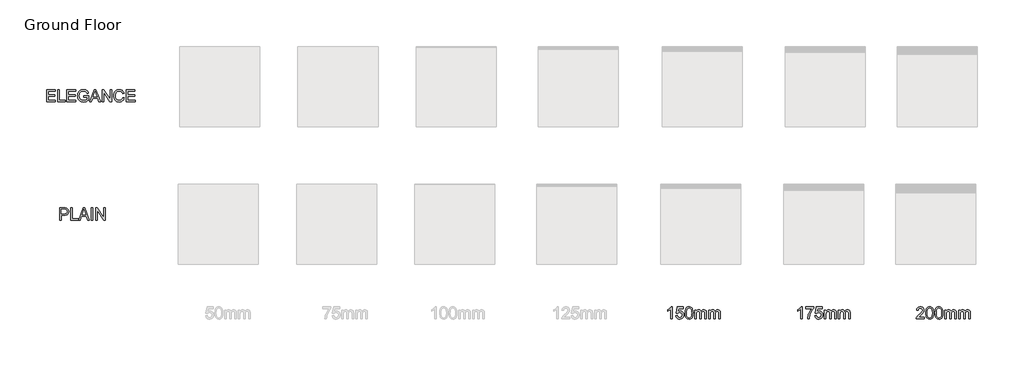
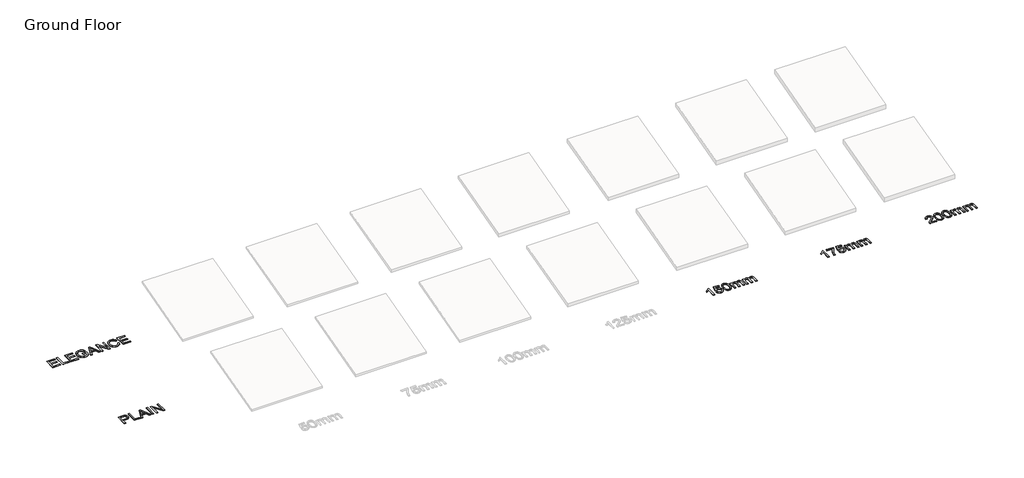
# One storey, part 3 of 3: 5 proxies.
"""IFC4 building model written with IfcOpenShell, lengths in millimetres."""

import ifcopenshell
import ifcopenshell.guid

model = None  # the IFC model being written
_history = None  # IfcOwnerHistory: only IFC2X3 demands one
_inside = {}  # id of a spatial element -> (the spatial element, [elements in it])
_under = {}  # id of a project, library or spatial element -> (it, [spatial elements below it])
_declared = {}  # id of a project -> (the project, [libraries it declares])
_typed = {}  # id of a type object -> (the type object, [elements of that type])
_made_of = {}  # id of a material, layer set ... -> (it, [elements and type objects made of it])


def new_model(schema):
    """Start an empty IFC model of exactly this schema.

    Asked for "IFC4X3", IfcOpenShell would pick the latest addendum, in which some entities
    have other attributes; the version numbers below select the first issue.
    IFC2X3 requires an IfcOwnerHistory on every rooted entity: one is made here for all.
    """
    global model, _history
    if schema == "IFC4X3":
        model = ifcopenshell.file(schema_version=(4, 3, 0, 0))
    else:
        model = ifcopenshell.file(schema=schema)
    _inside.clear()
    _under.clear()
    _declared.clear()
    _typed.clear()
    _made_of.clear()
    _history = None
    if model.schema == "IFC2X3":
        org = make("IfcOrganization", Name="unknown")
        user = make(
            "IfcPersonAndOrganization",
            ThePerson=make("IfcPerson", FamilyName="unknown"),
            TheOrganization=org,
        )
        app = make(
            "IfcApplication",
            ApplicationDeveloper=org,
            Version="unknown",
            ApplicationFullName="unknown",
            ApplicationIdentifier="unknown",
        )
        _history = make(
            "IfcOwnerHistory",
            OwningUser=user,
            OwningApplication=app,
            ChangeAction="ADDED",
            CreationDate=0,
        )
    return model


def make(cls, **values):
    """One entity of the class cls with the attributes given. An attribute that is None is left unset."""
    return model.create_entity(
        cls, **{name: value for name, value in values.items() if value is not None}
    )


def rooted(cls, **values):
    """An entity with a GlobalId (a new one), such as an element, a storey or a relation."""
    return make(cls, GlobalId=ifcopenshell.guid.new(), OwnerHistory=_history, **values)


def si_unit(unit_type, name, prefix=None):
    """IfcSIUnit, for example si_unit("LENGTHUNIT", "METRE", prefix="MILLI")."""
    return make("IfcSIUnit", UnitType=unit_type, Prefix=prefix, Name=name)


def assignment(units):
    """IfcUnitAssignment: the units of a project."""
    return None if units is None else make("IfcUnitAssignment", Units=units)


def point(xyz):
    """IfcCartesianPoint."""
    return None if xyz is None else make("IfcCartesianPoint", Coordinates=xyz)


def direction(xyz):
    """IfcDirection."""
    return None if xyz is None else make("IfcDirection", DirectionRatios=xyz)


def frame(location, z_axis=None, x_axis=None):
    """IfcAxis2Placement3D, a coordinate frame: its origin and axes. An axis left out is left unset."""
    return make(
        "IfcAxis2Placement3D",
        Location=point(location),
        Axis=direction(z_axis),
        RefDirection=direction(x_axis),
    )


def origin():
    """The frame at (0, 0, 0) with its axes left unset."""
    return frame((0.0, 0.0, 0.0))


def origin_with_axes():
    """The frame at (0, 0, 0) with the z axis (0, 0, 1) and the x axis (1, 0, 0) written out."""
    return frame((0.0, 0.0, 0.0), z_axis=(0.0, 0.0, 1.0), x_axis=(1.0, 0.0, 0.0))


def place(relative_to, where):
    """IfcLocalPlacement: puts the frame where relative to a parent placement (None: the world)."""
    return make(
        "IfcLocalPlacement", PlacementRelTo=relative_to, RelativePlacement=where
    )


def context(
    kind, dimensions, precision=None, world=None, true_north=None, identifier=None
):
    """IfcGeometricRepresentationContext, for example the 3D "Model" context."""
    return make(
        "IfcGeometricRepresentationContext",
        ContextIdentifier=identifier,
        ContextType=kind,
        CoordinateSpaceDimension=dimensions,
        Precision=precision,
        WorldCoordinateSystem=world,
        TrueNorth=true_north,
    )


def project(units=None, contexts=None):
    """IfcProject with its units and contexts."""
    return rooted(
        "IfcProject",
        Name="project",
        RepresentationContexts=contexts,
        UnitsInContext=assignment(units),
    )


def spatial(cls, under=None, at=None, **own):
    """A site, building, storey or space (cls), placed at a placement, below another one or the project."""
    s = rooted(cls, ObjectPlacement=at, **own)
    if under is not None:
        _under.setdefault(under.id(), (under, []))[1].append(s)
    return s


def polyline(points):
    """IfcPolyline through the points."""
    return make("IfcPolyline", Points=[point(p) for p in points])


def outline(outer, holes=None, kind="AREA"):
    """IfcArbitraryClosedProfileDef: a profile drawn as a closed curve; with holes, ...WithVoids."""
    if holes is None:
        return make("IfcArbitraryClosedProfileDef", ProfileType=kind, OuterCurve=outer)
    return make(
        "IfcArbitraryProfileDefWithVoids",
        ProfileType=kind,
        OuterCurve=outer,
        InnerCurves=holes,
    )


def extrude(swept, where, along, depth):
    """IfcExtrudedAreaSolid: the profile swept, set in the frame where, extruded along a direction by depth."""
    return make(
        "IfcExtrudedAreaSolid",
        SweptArea=swept,
        Position=where,
        ExtrudedDirection=direction(along),
        Depth=depth,
    )


def shape(context_of_items, identifier, shape_type, items):
    """IfcShapeRepresentation: the items that make up one representation, for example the "Body"."""
    return make(
        "IfcShapeRepresentation",
        ContextOfItems=context_of_items,
        RepresentationIdentifier=identifier,
        RepresentationType=shape_type,
        Items=items,
    )


def made_of(thing, what):
    """Note that an element or type object is made of a material, layer set ...; save() writes the relation."""
    if what is not None:
        _made_of.setdefault(what.id(), (what, []))[1].append(thing)
    return thing


def element(
    cls,
    number,
    at=None,
    inside=None,
    cuts=None,
    type_object=None,
    material=None,
    context=None,
    identifier="Body",
    shape_type=None,
    held_by="IfcProductDefinitionShape",
    body=None,
    shapes=None,
    **own,
):
    """One element of the class cls, such as IfcWall. Its Tag is "e" and its number.

    at: its placement. inside: the storey or other place that contains it. cuts: it is an
    opening in that element (IfcRelVoidsElement). A single representation is given by context,
    identifier, shape_type and body (its items); several are given by shapes. held_by: the class
    of the entity that holds the representations. save() writes the other relations.
    """
    e = rooted(cls, Tag="e%d" % number, ObjectPlacement=at, **own)
    if body is not None:
        shapes = [shape(context, identifier, shape_type, body)]
    if shapes is not None:
        e.Representation = make(held_by, Representations=shapes)
    if inside is not None:
        _inside.setdefault(inside.id(), (inside, []))[1].append(e)
    if cuts is not None:
        rooted(
            "IfcRelVoidsElement", RelatingBuildingElement=cuts, RelatedOpeningElement=e
        )
    if type_object is not None:
        _typed.setdefault(type_object.id(), (type_object, []))[1].append(e)
    return made_of(e, material)


def aggregate(whole, parts):
    """IfcRelAggregates: a whole, such as a stair, and the parts it consists of."""
    return rooted("IfcRelAggregates", RelatingObject=whole, RelatedObjects=parts)


def save(model, path):
    """Write the relations noted so far, then the file.

    IfcRelAggregates (storeys below a building ...), IfcRelContainedInSpatialStructure (elements
    in a storey), IfcRelDefinesByType, IfcRelAssociatesMaterial and IfcRelDeclares: one each for
    every whole, place, type object, material and project.
    """
    for whole, parts in _under.values():
        aggregate(whole, parts)
    for where, things in _inside.values():
        rooted(
            "IfcRelContainedInSpatialStructure",
            RelatedElements=things,
            RelatingStructure=where,
        )
    for kind, things in _typed.values():
        rooted("IfcRelDefinesByType", RelatedObjects=things, RelatingType=kind)
    for what, things in _made_of.values():
        rooted("IfcRelAssociatesMaterial", RelatedObjects=things, RelatingMaterial=what)
    for by, libraries in _declared.values():
        rooted("IfcRelDeclares", RelatingContext=by, RelatedDefinitions=libraries)
    model.write(path)


model = new_model("IFC4")

# Units and contexts
model_context = context("Model", 3, world=origin())
ifc_project = project(units=[si_unit("LENGTHUNIT", "METRE", prefix="MILLI")], contexts=[model_context])

# Site, building, storey
site = spatial("IfcSite", under=ifc_project)
building = spatial("IfcBuilding", under=site)
storey = spatial("IfcBuildingStorey", under=building, Name="Ground Floor", Elevation=0.0)

# Proxies
placement = place(None, origin())
element("IfcBuildingElementProxy", 1, Name="600mm Arial", ObjectType="600mm Arial", at=placement, inside=storey, context=model_context, shape_type="SweptSolid", body=[
    extrude(outline(polyline([(15201.7887855, -2485.58737), (15126.4465529, -2485.58737), (15126.4465529, -2015.8756386), (15094.9926423, -2041.3146785), (15055.0774458, -2066.7169303), (15013.1756866, -2088.9186087), (14975.7620877, -2104.7559286), (14975.7620877, -2033.5339743), (15034.9359066, -2001.3442998), (15086.2002626, -1963.0477841), (15126.6120998, -1922.3232472), (15153.2283621, -1882.8495091), (15201.7887855, -1882.8495091), (15201.7887855, -2485.58737)])), origin_with_axes(), (0.0, 0.0, 1.0), 20.0),
    extrude(outline(polyline([(15380.726588, -2325.4851257), (15456.0688206, -2316.0673466), (15461.6974151, -2340.2877775), (15469.9011836, -2361.2984379), (15480.680126, -2379.099328), (15494.0342425, -2393.6904476), (15509.9359417, -2405.0534027), (15528.3576326, -2413.1697993), (15549.2993152, -2418.0396372), (15572.7609894, -2419.6629165), (15601.4557851, -2417.4050407), (15626.7660663, -2410.6314135), (15648.6918332, -2399.3420348), (15667.2330858, -2383.5369045), (15681.9759568, -2363.9977721), (15692.5065789, -2341.5063866), (15698.8249521, -2316.0627481), (15700.9310766, -2287.6668566), (15698.9583094, -2260.8298651), (15693.0400078, -2236.9727177), (15683.1761718, -2216.0954144), (15669.3668014, -2198.1979554), (15651.5659113, -2183.8413605), (15629.7275164, -2173.5866499), (15603.8516166, -2167.4338235), (15573.9382118, -2165.3828814), (15537.3891356, -2168.6570312), (15507.7930291, -2178.4794804), (15484.1566109, -2193.525854), (15465.4865996, -2212.4717768), (15390.144367, -2203.0539977), (15456.0688206, -1892.2672882), (15748.0199719, -1892.2672882), (15748.0199719, -1967.6095208), (15516.990079, -1967.6095208), (15484.7636162, -2133.597877), (15511.3522874, -2114.5415897), (15538.5847521, -2100.9299559), (15566.4610103, -2092.7629756), (15594.981062, -2090.0406488), (15631.6726924, -2093.4159661), (15665.3752817, -2103.541918), (15696.0888298, -2120.4185045), (15723.8133367, -2144.0457257), (15746.7645746, -2172.9796446), (15763.158316, -2205.7763245), (15772.9945609, -2242.4357653), (15776.2733092, -2282.9579671), (15773.3210562, -2321.9902468), (15764.4642971, -2358.3001997), (15749.7030321, -2391.8878258), (15729.037261, -2422.7531252), (15697.7305032, -2454.3633857), (15661.1998211, -2476.9421431), (15619.4452146, -2490.4893976), (15572.4666838, -2495.0051491), (15533.5861555, -2492.1034798), (15498.4672205, -2483.3984721), (15467.109879, -2468.890126), (15439.5141308, -2448.5784413), (15416.5536958, -2423.4750936), (15399.1022936, -2394.5917585), (15387.1599243, -2361.9284359), (15380.726588, -2325.4851257)])), origin_with_axes(), (0.0, 0.0, 1.0), 20.0),
    extrude(outline(polyline([(15842.1977627, -2189.0744819), (15847.7343867, -2092.5974287), (15854.6551668, -2051.6843523), (15864.3442588, -2015.6549094), (15876.7602762, -1984.2147944), (15891.8618321, -1957.0697016), (15909.6489265, -1934.2196312), (15930.1215596, -1915.6645831), (15953.348709, -1901.3079882), (15979.3993528, -1891.0532776), (16008.2734909, -1884.9004512), (16039.9711233, -1882.8495091), (16086.3978311, -1887.7055514), (16127.9684966, -1902.2736785), (16162.7333451, -1925.983673), (16188.7426022, -1958.2653181), (16208.3875007, -1998.8427022), (16224.0592737, -2047.4399138), (16234.3231814, -2109.1521184), (16237.7444839, -2189.0744819), (16232.2630422, -2284.9997121), (16225.41124, -2325.7748328), (16215.818717, -2361.7582904), (16203.4992687, -2393.212201), (16188.4666907, -2420.3986805), (16170.7209829, -2443.3177288), (16150.2621455, -2461.9693459), (16127.0074049, -2476.4225098), (16100.8739876, -2486.7461983), (16071.8618938, -2492.9404114), (16039.9711233, -2495.0051491), (15998.4740343, -2491.4182996), (15961.6858347, -2480.6577513), (15929.6065248, -2462.723504), (15902.2361043, -2437.6155578), (15875.9693299, -2392.2281167), (15857.2073481, -2335.675457), (15845.9501591, -2267.9575787), (15842.1977627, -2189.0744819)]), holes=[polyline([(15917.5399953, -2188.9273291), (15919.7472873, -2254.4241198), (15926.3691632, -2307.4405138), (15937.4056231, -2347.9765112), (15952.8566669, -2376.0321118), (15971.5450722, -2395.1205889), (15992.2936167, -2408.7552153), (16015.1023004, -2416.9359912), (16039.9711233, -2419.6629165), (16064.8399462, -2416.9267941), (16087.6486299, -2408.7184271), (16108.3971744, -2395.0378154), (16127.0855798, -2375.884959), (16142.5366236, -2347.7833731), (16153.5730834, -2307.2565728), (16160.1949593, -2254.3045582), (16162.4022513, -2188.9273291), (16160.2685357, -2125.1641823), (16153.867389, -2073.0812888), (16143.1988112, -2032.6786487), (16128.2628022, -2003.9562619), (16109.8870965, -1983.9342843), (16088.8994287, -1969.6328718), (16065.2997987, -1961.0520242), (16039.0882065, -1958.1917417), (16014.3481424, -1960.7117334), (15991.9257347, -1968.2717084), (15971.8209837, -1980.8716667), (15954.0338892, -1998.5116084), (15938.0678107, -2029.781578), (15926.6634688, -2071.9408546), (15919.8208637, -2124.9894383), (15917.5399953, -2188.9273291)])]), origin_with_axes(), (0.0, 0.0, 1.0), 20.0),
    extrude(outline(polyline([(16322.5044956, -2485.58737), (16322.5044956, -2042.9517534), (16397.8467282, -2042.9517534), (16397.8467282, -2115.7923885), (16420.5082591, -2082.333521), (16449.6445131, -2056.1219288), (16484.2622089, -2039.180963), (16523.368065, -2033.5339743), (16565.2698242, -2039.2913276), (16583.1029039, -2046.4880191), (16598.8574504, -2056.5633872), (16623.9470025, -2084.2097192), (16640.3545394, -2121.0898892), (16667.8169304, -2082.7841764), (16699.1420823, -2055.422953), (16734.3299951, -2039.006219), (16773.3806689, -2033.5339743), (16803.542394, -2035.8102442), (16830.0161021, -2042.6390537), (16852.8017931, -2054.0204029), (16871.8994672, -2069.9542919), (16886.9964246, -2090.6246615), (16897.7799656, -2116.2154528), (16904.2500902, -2146.7266657), (16906.4067984, -2182.1583004), (16906.4067984, -2485.58737), (16831.0645657, -2485.58737), (16831.0645657, -2214.531916), (16829.3171263, -2176.9527702), (16824.0748078, -2151.6240948), (16814.2523586, -2134.2784587), (16798.7645266, -2120.6484308), (16778.8437165, -2111.8192629), (16755.7223331, -2108.8762069), (16734.3713818, -2110.7616022), (16714.9058258, -2116.4177879), (16697.3256649, -2125.844764), (16681.6308993, -2139.0425306), (16668.7228398, -2156.3973637), (16659.5027973, -2178.2955394), (16653.9707718, -2204.7370578), (16652.1267633, -2235.7219189), (16652.1267633, -2485.58737), (16576.7845307, -2485.58737), (16576.7845307, -2206.1442065), (16572.425129, -2163.5434714), (16566.975877, -2146.8232348), (16559.3469241, -2133.1564186), (16549.2347678, -2122.533826), (16536.3359053, -2114.9462599), (16520.6503367, -2110.3937202), (16502.1780621, -2108.8762069), (16473.1521726, -2112.9229089), (16446.4071516, -2125.0630147), (16424.3342319, -2145.0022189), (16409.3246465, -2172.4462157), (16400.7162078, -2210.5220022), (16397.8467282, -2262.3565753), (16397.8467282, -2485.58737), (16322.5044956, -2485.58737)])), origin_with_axes(), (0.0, 0.0, 1.0), 20.0),
    extrude(outline(polyline([(17019.4201473, -2485.58737), (17019.4201473, -2042.9517534), (17094.7623799, -2042.9517534), (17094.7623799, -2115.7923885), (17117.4239108, -2082.333521), (17146.5601648, -2056.1219288), (17181.1778606, -2039.180963), (17220.2837166, -2033.5339743), (17262.1854759, -2039.2913276), (17280.0185556, -2046.4880191), (17295.7731021, -2056.5633872), (17320.8626541, -2084.2097192), (17337.2701911, -2121.0898892), (17364.732582, -2082.7841764), (17396.0577339, -2055.422953), (17431.2456468, -2039.006219), (17470.2963206, -2033.5339743), (17500.4580456, -2035.8102442), (17526.9317537, -2042.6390537), (17549.7174448, -2054.0204029), (17568.8151189, -2069.9542919), (17583.9120762, -2090.6246615), (17594.6956172, -2116.2154528), (17601.1657418, -2146.7266657), (17603.32245, -2182.1583004), (17603.32245, -2485.58737), (17527.9802174, -2485.58737), (17527.9802174, -2214.531916), (17526.2327779, -2176.9527702), (17520.9904595, -2151.6240948), (17511.1680102, -2134.2784587), (17495.6801782, -2120.6484308), (17475.7593682, -2111.8192629), (17452.6379848, -2108.8762069), (17431.2870335, -2110.7616022), (17411.8214774, -2116.4177879), (17394.2413166, -2125.844764), (17378.546551, -2139.0425306), (17365.6384915, -2156.3973637), (17356.418449, -2178.2955394), (17350.8864235, -2204.7370578), (17349.042415, -2235.7219189), (17349.042415, -2485.58737), (17273.7001823, -2485.58737), (17273.7001823, -2206.1442065), (17269.3407807, -2163.5434714), (17263.8915286, -2146.8232348), (17256.2625758, -2133.1564186), (17246.1504194, -2122.533826), (17233.251557, -2114.9462599), (17217.5659884, -2110.3937202), (17199.0937137, -2108.8762069), (17170.0678243, -2112.9229089), (17143.3228033, -2125.0630147), (17121.2498835, -2145.0022189), (17106.2402981, -2172.4462157), (17097.6318594, -2210.5220022), (17094.7623799, -2262.3565753), (17094.7623799, -2485.58737), (17019.4201473, -2485.58737)])), origin_with_axes(), (0.0, 0.0, 1.0), 20.0),
])
element("IfcBuildingElementProxy", 2, Name="600mm Arial", ObjectType="600mm Arial", at=placement, inside=storey, context=model_context, shape_type="SweptSolid", body=[
    extrude(outline(polyline([(-15403.839663, 2451.9959966), (-15403.839663, 3054.7338575), (-15180.4617155, 3054.7338575), (-15128.4432014, 3053.2991177), (-15090.4042031, 3048.9948984), (-15050.2498833, 3038.2711382), (-15017.1956861, 3020.8151376), (-14990.5794237, 2995.8359501), (-14969.7389087, 2962.5426295), (-14956.2744277, 2923.2712265), (-14951.7862673, 2880.3577918), (-14954.8166953, 2843.3580601), (-14963.9079791, 2809.3197785), (-14979.0601187, 2778.242947), (-15000.2731143, 2750.1275655), (-15029.3955727, 2726.8222411), (-15068.2761011, 2710.1755808), (-15116.9146994, 2700.1875847), (-15175.3113676, 2696.8582526), (-15328.4974304, 2696.8582526), (-15328.4974304, 2451.9959966), (-15403.839663, 2451.9959966)]), holes=[polyline([(-15328.4974304, 2772.2004852), (-15170.8967836, 2772.2004852), (-15134.6604071, 2773.9295306), (-15104.0894133, 2779.1166667), (-15079.1838023, 2787.7618936), (-15059.9435739, 2799.8652113), (-15045.586979, 2815.1047229), (-15035.3322684, 2833.1585318), (-15029.1794421, 2854.026638), (-15027.1284999, 2877.7090414), (-15031.9661482, 2911.554185), (-15046.4790929, 2940.1018278), (-15068.8647123, 2961.5861363), (-15097.3203846, 2974.241277), (-15126.3830622, 2978.1040379), (-15172.6626172, 2979.3916249), (-15328.4974304, 2979.3916249), (-15328.4974304, 2772.2004852)])]), origin_with_axes(), (0.0, 0.0, 1.0), 20.0),
    extrude(outline(polyline([(-14848.1906975, 2451.9959966), (-14848.1906975, 3054.7338575), (-14772.8484649, 3054.7338575), (-14772.8484649, 2527.3382292), (-14471.4795344, 2527.3382292), (-14471.4795344, 2451.9959966), (-14848.1906975, 2451.9959966)])), origin_with_axes(), (0.0, 0.0, 1.0), 20.0),
    extrude(outline(polyline([(-14456.9114074, 2451.9959966), (-14216.3165826, 3054.7338575), (-14152.1579626, 3054.7338575), (-13911.5631378, 2451.9959966), (-13991.1728015, 2451.9959966), (-14060.1874638, 2640.3515782), (-14308.4342342, 2640.3515782), (-14377.3017437, 2451.9959966), (-14456.9114074, 2451.9959966)]), holes=[polyline([(-14280.7695081, 2715.6938108), (-14087.705037, 2715.6938108), (-14142.0044195, 2863.8766784), (-14184.2372726, 2979.3916249), (-14221.7612361, 2876.8261247), (-14280.7695081, 2715.6938108)])]), origin_with_axes(), (0.0, 0.0, 1.0), 20.0),
    extrude(outline(polyline([(-13821.6527781, 2451.9959966), (-13821.6527781, 3054.7338575), (-13746.3105455, 3054.7338575), (-13746.3105455, 2451.9959966), (-13821.6527781, 2451.9959966)])), origin_with_axes(), (0.0, 0.0, 1.0), 20.0),
    extrude(outline(polyline([(-13595.6260803, 2451.9959966), (-13595.6260803, 3054.7338575), (-13514.986347, 3054.7338575), (-13200.0793591, 2577.2230278), (-13200.0793591, 3054.7338575), (-13124.7371265, 3054.7338575), (-13124.7371265, 2451.9959966), (-13205.3768598, 2451.9959966), (-13520.2838477, 2929.6539792), (-13520.2838477, 2451.9959966), (-13595.6260803, 2451.9959966)])), origin_with_axes(), (0.0, 0.0, 1.0), 20.0),
])
element("IfcBuildingElementProxy", 3, Name="600mm Arial", ObjectType="600mm Arial", at=placement, inside=storey, context=model_context, shape_type="SweptSolid", body=[
    extrude(outline(polyline([(-16053.6664193, 8356.7959966), (-16053.6664193, 8959.5338575), (-15620.4485818, 8959.5338575), (-15620.4485818, 8884.1916249), (-15978.3241867, 8884.1916249), (-15978.3241867, 8705.2538225), (-15639.2841399, 8705.2538225), (-15639.2841399, 8629.9115898), (-15978.3241867, 8629.9115898), (-15978.3241867, 8432.1382292), (-15611.0308027, 8432.1382292), (-15611.0308027, 8356.7959966), (-16053.6664193, 8356.7959966)])), origin_with_axes(), (0.0, 0.0, 1.0), 20.0),
    extrude(outline(polyline([(-15498.0174538, 8356.7959966), (-15498.0174538, 8959.5338575), (-15422.6752211, 8959.5338575), (-15422.6752211, 8432.1382292), (-15121.3062907, 8432.1382292), (-15121.3062907, 8356.7959966), (-15498.0174538, 8356.7959966)])), origin_with_axes(), (0.0, 0.0, 1.0), 20.0),
    extrude(outline(polyline([(-15036.546279, 8356.7959966), (-15036.546279, 8959.5338575), (-14603.3284415, 8959.5338575), (-14603.3284415, 8884.1916249), (-14961.2040464, 8884.1916249), (-14961.2040464, 8705.2538225), (-14622.1639996, 8705.2538225), (-14622.1639996, 8629.9115898), (-14961.2040464, 8629.9115898), (-14961.2040464, 8432.1382292), (-14593.9106624, 8432.1382292), (-14593.9106624, 8356.7959966), (-15036.546279, 8356.7959966)])), origin_with_axes(), (0.0, 0.0, 1.0), 20.0),
    extrude(outline(polyline([(-14198.3639412, 8592.2404735), (-14198.3639412, 8667.5827061), (-13953.5016852, 8667.5827061), (-13953.5016852, 8442.2917723), (-14013.0065979, 8400.9050478), (-14074.3877088, 8371.2169708), (-14137.4978651, 8353.3379059), (-14202.1899139, 8347.3782175), (-14245.4666322, 8349.7464579), (-14286.7108023, 8356.8511789), (-14325.9224245, 8368.6923806), (-14363.1014986, 8385.270063), (-14397.0478097, 8406.3359058), (-14426.5611428, 8431.6415885), (-14451.6414978, 8461.1871113), (-14472.2888748, 8494.972474), (-14488.4159018, 8531.9170234), (-14499.9352067, 8570.940106), (-14506.8467897, 8612.0417219), (-14509.1506507, 8655.2218711), (-14506.8559868, 8698.4066188), (-14499.9719949, 8740.1106415), (-14488.4986752, 8780.3339391), (-14472.4360276, 8819.0765118), (-14452.0691606, 8854.6369051), (-14427.6831829, 8885.313665), (-14399.2780943, 8911.1067914), (-14366.853895, 8932.0162843), (-14331.1141592, 8948.1755009), (-14292.7624612, 8959.7177985), (-14251.798801, 8966.6431771), (-14208.2231787, 8968.9516366), (-14146.1614861, 8963.5989536), (-14090.3537874, 8947.5409045), (-14065.4343808, 8935.7870747), (-14043.3568625, 8921.9363176), (-14024.1212327, 8905.9886331), (-14007.7274913, 8887.9440213), (-13981.3687463, 8843.9269405), (-13962.1837003, 8788.2480006), (-14031.639821, 8768.6766784), (-14047.1460471, 8808.3895398), (-14065.9999993, 8838.3535283), (-14090.9423986, 8860.9414828), (-14124.7139658, 8878.5262422), (-14164.9786501, 8889.8386135), (-14209.4004011, 8893.609404), (-14261.4005211, 8889.5443079), (-14305.8590602, 8877.3490198), (-14342.6104715, 8858.5502498), (-14371.4892081, 8834.6747084), (-14393.6540983, 8806.9548), (-14410.2639704, 8776.6229295), (-14427.9223062, 8719.7483731), (-14433.8084181, 8658.3120799), (-14432.037986, 8620.6915473), (-14426.7266897, 8586.2623911), (-14417.8745292, 8555.0246112), (-14405.4815045, 8526.9782076), (-14389.7085639, 8502.2289464), (-14370.7166559, 8480.8825936), (-14348.5057805, 8462.9391493), (-14323.0759376, 8448.3986134), (-14295.6181451, 8437.164417), (-14267.3234212, 8429.139991), (-14238.1917657, 8424.3253354), (-14208.2231787, 8422.7204502), (-14156.0391177, 8427.5580984), (-14105.1426436, 8442.0710431), (-14060.9416219, 8462.0654295), (-14028.8439178, 8483.347403), (-14028.8439178, 8592.2404735), (-14198.3639412, 8592.2404735)])), origin_with_axes(), (0.0, 0.0, 1.0), 20.0),
    extrude(outline(polyline([(-13901.2624419, 8356.7959966), (-13660.667617, 8959.5338575), (-13596.5089971, 8959.5338575), (-13355.9141722, 8356.7959966), (-13435.523836, 8356.7959966), (-13504.5384983, 8545.1515782), (-13752.7852686, 8545.1515782), (-13821.6527781, 8356.7959966), (-13901.2624419, 8356.7959966)]), holes=[polyline([(-13725.1205426, 8620.4938108), (-13532.0560715, 8620.4938108), (-13586.355454, 8768.6766784), (-13628.5883071, 8884.1916249), (-13666.1122706, 8781.6261247), (-13725.1205426, 8620.4938108)])]), origin_with_axes(), (0.0, 0.0, 1.0), 20.0),
    extrude(outline(polyline([(-13275.4215917, 8356.7959966), (-13275.4215917, 8959.5338575), (-13194.7818584, 8959.5338575), (-12879.8748705, 8482.0230278), (-12879.8748705, 8959.5338575), (-12804.5326379, 8959.5338575), (-12804.5326379, 8356.7959966), (-12885.1723712, 8356.7959966), (-13200.0793591, 8834.4539792), (-13200.0793591, 8356.7959966), (-13275.4215917, 8356.7959966)])), origin_with_axes(), (0.0, 0.0, 1.0), 20.0),
    extrude(outline(polyline([(-12248.8836724, 8571.0504706), (-12173.5414397, 8551.6263013), (-12188.4498576, 8504.7719307), (-12208.3062883, 8463.8312631), (-12233.1107318, 8428.8042987), (-12262.8631882, 8399.6910373), (-12296.8922727, 8376.8041786), (-12334.5266008, 8360.4564225), (-12375.7661725, 8350.6477688), (-12420.6109877, 8347.3782175), (-12466.5548504, 8349.852224), (-12508.0013557, 8357.2742432), (-12544.9505036, 8369.6442753), (-12577.4022941, 8386.9623202), (-12605.8027841, 8408.9708606), (-12630.5980306, 8435.412379), (-12651.7880335, 8466.2868754), (-12669.3727928, 8501.5943499), (-12683.1821632, 8539.8080922), (-12693.0459992, 8579.4013919), (-12698.9643008, 8620.3742491), (-12700.937068, 8662.7266638), (-12698.7067834, 8708.1692873), (-12692.0159296, 8750.6136725), (-12680.8645067, 8790.0598194), (-12665.2525145, 8826.5077281), (-12645.529441, 8859.3549917), (-12622.0447742, 8887.9992036), (-12594.7985139, 8912.4403636), (-12563.7906602, 8932.6784719), (-12530.0742754, 8948.5479814), (-12494.7024215, 8959.8833454), (-12457.6750987, 8966.6845638), (-12418.9923069, 8968.9516366), (-12375.8995297, 8966.0177777), (-12336.3844049, 8957.216201), (-12300.4469325, 8942.5469064), (-12268.0871125, 8922.009894), (-12239.8383738, 8896.1477898), (-12216.2341453, 8865.5032196), (-12197.274427, 8830.0761834), (-12182.9592188, 8789.8666813), (-12258.3014514, 8771.91404), (-12270.1656458, 8801.5423362), (-12284.4210731, 8826.857216), (-12301.0677334, 8847.8586794), (-12320.1056266, 8864.5467264), (-12341.6451174, 8877.2616478), (-12365.7965704, 8886.3437346), (-12392.5599856, 8891.7929866), (-12421.9353629, 8893.609404), (-12455.7345212, 8891.5952501), (-12486.6458058, 8885.5527883), (-12514.6692168, 8875.4820187), (-12539.8047541, 8861.3829412), (-12561.7351196, 8843.8901523), (-12580.1430149, 8823.6382485), (-12595.0284401, 8800.6272297), (-12606.3913953, 8774.8570959), (-12620.7939754, 8719.7115849), (-12625.5948354, 8662.8738166), (-12619.9110586, 8593.2705431), (-12612.8063376, 8562.0005735), (-12602.8597281, 8533.0850487), (-12589.9102819, 8507.0987843), (-12573.7970505, 8484.6165958), (-12554.520034, 8465.6384834), (-12532.0792322, 8450.164447), (-12507.5644958, 8438.1576984), (-12482.065675, 8429.5814494), (-12455.5827699, 8424.4357), (-12428.1157804, 8422.7204502), (-12395.3604873, 8425.0565008), (-12365.2263533, 8432.0646528), (-12337.7133786, 8443.7449062), (-12312.8215631, 8460.0972609), (-12291.139518, 8481.0481405), (-12273.2558545, 8506.5239687), (-12259.1705726, 8536.5247454), (-12248.8836724, 8571.0504706)])), origin_with_axes(), (0.0, 0.0, 1.0), 20.0),
    extrude(outline(polyline([(-12069.9458699, 8356.7959966), (-12069.9458699, 8959.5338575), (-11636.7280324, 8959.5338575), (-11636.7280324, 8884.1916249), (-11994.6036373, 8884.1916249), (-11994.6036373, 8705.2538225), (-11655.5635905, 8705.2538225), (-11655.5635905, 8629.9115898), (-11994.6036373, 8629.9115898), (-11994.6036373, 8432.1382292), (-11627.3102533, 8432.1382292), (-11627.3102533, 8356.7959966), (-12069.9458699, 8356.7959966)])), origin_with_axes(), (0.0, 0.0, 1.0), 20.0),
])
element("IfcBuildingElementProxy", 4, Name="600mm Arial", ObjectType="600mm Arial", at=placement, inside=storey, context=model_context, shape_type="SweptSolid", body=[
    extrude(outline(polyline([(21684.5093945, -2485.58737), (21609.1671619, -2485.58737), (21609.1671619, -2015.8756386), (21577.7132513, -2041.3146785), (21537.7980549, -2066.7169303), (21495.8962956, -2088.9186087), (21458.4826967, -2104.7559286), (21458.4826967, -2033.5339743), (21517.6565156, -2001.3442998), (21568.9208717, -1963.0477841), (21609.3327088, -1922.3232472), (21635.9489712, -1882.8495091), (21684.5093945, -1882.8495091), (21684.5093945, -2485.58737)])), origin_with_axes(), (0.0, 0.0, 1.0), 20.0),
    extrude(outline(polyline([(21863.447197, -1967.6095208), (21863.447197, -1892.2672882), (22258.9939182, -1892.2672882), (22258.9939182, -1953.1885466), (22202.6160024, -2024.5392596), (22146.7899097, -2115.2773537), (22097.5489046, -2217.125484), (22077.6602843, -2269.1118085), (22060.926252, -2321.8063058), (22042.9736106, -2400.1283825), (22032.9672204, -2485.58737), (21957.6249878, -2485.58737), (21965.773574, -2407.9274808), (21987.5705822, -2315.6258882), (22003.4400917, -2266.260723), (22022.4274012, -2217.7876716), (22044.5325106, -2170.2067341), (22069.7554199, -2123.5179104), (22125.0112956, -2038.2980462), (22183.6516856, -1967.6095208), (21863.447197, -1967.6095208)])), origin_with_axes(), (0.0, 0.0, 1.0), 20.0),
    extrude(outline(polyline([(22324.9183717, -2325.4851257), (22400.2606044, -2316.0673466), (22405.8891989, -2340.2877775), (22414.0929674, -2361.2984379), (22424.8719098, -2379.099328), (22438.2260263, -2393.6904476), (22454.1277255, -2405.0534027), (22472.5494164, -2413.1697993), (22493.491099, -2418.0396372), (22516.9527732, -2419.6629165), (22545.6475688, -2417.4050407), (22570.9578501, -2410.6314135), (22592.883617, -2399.3420348), (22611.4248696, -2383.5369045), (22626.1677405, -2363.9977721), (22636.6983627, -2341.5063866), (22643.0167359, -2316.0627481), (22645.1228603, -2287.6668566), (22643.1500931, -2260.8298651), (22637.2317915, -2236.9727177), (22627.3679556, -2216.0954144), (22613.5585852, -2198.1979554), (22595.7576951, -2183.8413605), (22573.9193002, -2173.5866499), (22548.0434003, -2167.4338235), (22518.1299956, -2165.3828814), (22481.5809194, -2168.6570312), (22451.9848129, -2178.4794804), (22428.3483947, -2193.525854), (22409.6783834, -2212.4717768), (22334.3361508, -2203.0539977), (22400.2606044, -1892.2672882), (22692.2117557, -1892.2672882), (22692.2117557, -1967.6095208), (22461.1818628, -1967.6095208), (22428.9554, -2133.597877), (22455.5440712, -2114.5415897), (22482.7765359, -2100.9299559), (22510.6527941, -2092.7629756), (22539.1728457, -2090.0406488), (22575.8644762, -2093.4159661), (22609.5670655, -2103.541918), (22640.2806136, -2120.4185045), (22668.0051204, -2144.0457257), (22690.9563584, -2172.9796446), (22707.3500998, -2205.7763245), (22717.1863447, -2242.4357653), (22720.465093, -2282.9579671), (22717.5128399, -2321.9902468), (22708.6560809, -2358.3001997), (22693.8948159, -2391.8878258), (22673.2290448, -2422.7531252), (22641.922287, -2454.3633857), (22605.3916049, -2476.9421431), (22563.6369984, -2490.4893976), (22516.6584676, -2495.0051491), (22477.7779393, -2492.1034798), (22442.6590043, -2483.3984721), (22411.3016627, -2468.890126), (22383.7059146, -2448.5784413), (22360.7454795, -2423.4750936), (22343.2940774, -2394.5917585), (22331.3517081, -2361.9284359), (22324.9183717, -2325.4851257)])), origin_with_axes(), (0.0, 0.0, 1.0), 20.0),
    extrude(outline(polyline([(22805.2251046, -2485.58737), (22805.2251046, -2042.9517534), (22880.5673373, -2042.9517534), (22880.5673373, -2115.7923885), (22903.2288682, -2082.333521), (22932.3651222, -2056.1219288), (22966.9828179, -2039.180963), (23006.088674, -2033.5339743), (23047.9904333, -2039.2913276), (23065.823513, -2046.4880191), (23081.5780594, -2056.5633872), (23106.6676115, -2084.2097192), (23123.0751485, -2121.0898892), (23150.5375394, -2082.7841764), (23181.8626913, -2055.422953), (23217.0506041, -2039.006219), (23256.1012779, -2033.5339743), (23286.263003, -2035.8102442), (23312.7367111, -2042.6390537), (23335.5224022, -2054.0204029), (23354.6200762, -2069.9542919), (23369.7170336, -2090.6246615), (23380.5005746, -2116.2154528), (23386.9706992, -2146.7266657), (23389.1274074, -2182.1583004), (23389.1274074, -2485.58737), (23313.7851748, -2485.58737), (23313.7851748, -2214.531916), (23312.0377353, -2176.9527702), (23306.7954169, -2151.6240948), (23296.9729676, -2134.2784587), (23281.4851356, -2120.6484308), (23261.5643256, -2111.8192629), (23238.4429422, -2108.8762069), (23217.0919909, -2110.7616022), (23197.6264348, -2116.4177879), (23180.046274, -2125.844764), (23164.3515083, -2139.0425306), (23151.4434488, -2156.3973637), (23142.2234063, -2178.2955394), (23136.6913808, -2204.7370578), (23134.8473723, -2235.7219189), (23134.8473723, -2485.58737), (23059.5051397, -2485.58737), (23059.5051397, -2206.1442065), (23055.1457381, -2163.5434714), (23049.696486, -2146.8232348), (23042.0675331, -2133.1564186), (23031.9553768, -2122.533826), (23019.0565143, -2114.9462599), (23003.3709458, -2110.3937202), (22984.8986711, -2108.8762069), (22955.8727817, -2112.9229089), (22929.1277606, -2125.0630147), (22907.0548409, -2145.0022189), (22892.0452555, -2172.4462157), (22883.4368168, -2210.5220022), (22880.5673373, -2262.3565753), (22880.5673373, -2485.58737), (22805.2251046, -2485.58737)])), origin_with_axes(), (0.0, 0.0, 1.0), 20.0),
    extrude(outline(polyline([(23502.1407563, -2485.58737), (23502.1407563, -2042.9517534), (23577.4829889, -2042.9517534), (23577.4829889, -2115.7923885), (23600.1445198, -2082.333521), (23629.2807738, -2056.1219288), (23663.8984696, -2039.180963), (23703.0043257, -2033.5339743), (23744.9060849, -2039.2913276), (23762.7391646, -2046.4880191), (23778.4937111, -2056.5633872), (23803.5832632, -2084.2097192), (23819.9908001, -2121.0898892), (23847.4531911, -2082.7841764), (23878.778343, -2055.422953), (23913.9662558, -2039.006219), (23953.0169296, -2033.5339743), (23983.1786547, -2035.8102442), (24009.6523628, -2042.6390537), (24032.4380538, -2054.0204029), (24051.5357279, -2069.9542919), (24066.6326853, -2090.6246615), (24077.4162263, -2116.2154528), (24083.8863509, -2146.7266657), (24086.0430591, -2182.1583004), (24086.0430591, -2485.58737), (24010.7008264, -2485.58737), (24010.7008264, -2214.531916), (24008.953387, -2176.9527702), (24003.7110685, -2151.6240948), (23993.8886193, -2134.2784587), (23978.4007873, -2120.6484308), (23958.4799772, -2111.8192629), (23935.3585938, -2108.8762069), (23914.0076425, -2110.7616022), (23894.5420865, -2116.4177879), (23876.9619256, -2125.844764), (23861.26716, -2139.0425306), (23848.3591005, -2156.3973637), (23839.139058, -2178.2955394), (23833.6070325, -2204.7370578), (23831.763024, -2235.7219189), (23831.763024, -2485.58737), (23756.4207914, -2485.58737), (23756.4207914, -2206.1442065), (23752.0613897, -2163.5434714), (23746.6121377, -2146.8232348), (23738.9831848, -2133.1564186), (23728.8710285, -2122.533826), (23715.972166, -2114.9462599), (23700.2865974, -2110.3937202), (23681.8143228, -2108.8762069), (23652.7884333, -2112.9229089), (23626.0434123, -2125.0630147), (23603.9704926, -2145.0022189), (23588.9609072, -2172.4462157), (23580.3524685, -2210.5220022), (23577.4829889, -2262.3565753), (23577.4829889, -2485.58737), (23502.1407563, -2485.58737)])), origin_with_axes(), (0.0, 0.0, 1.0), 20.0),
])
element("IfcBuildingElementProxy", 5, Name="600mm Arial", ObjectType="600mm Arial", at=placement, inside=storey, context=model_context, shape_type="SweptSolid", body=[
    extrude(outline(polyline([(27788.1049644, -2410.2451374), (27788.1049644, -2485.58737), (27392.5582432, -2485.58737), (27394.2137121, -2459.0630782), (27400.6516471, -2433.6424323), (27419.2296878, -2393.0466541), (27446.4161673, -2353.6648865), (27485.7427525, -2312.443709), (27540.7411108, -2266.3297009), (27622.0430318, -2194.1144652), (27670.8241843, -2140.8083641), (27685.0520205, -2119.02975), (27695.2147606, -2097.5454415), (27701.3124047, -2076.3554386), (27703.3449527, -2055.4597412), (27701.4273678, -2035.8010471), (27695.6746131, -2017.7334426), (27686.0866886, -2001.2569278), (27672.6635943, -1986.3715026), (27656.1502912, -1974.0428572), (27637.2917405, -1965.2366819), (27616.087942, -1959.9529768), (27592.5388957, -1958.1917417), (27567.7298537, -1959.9115901), (27545.5419709, -1965.071135), (27525.9752472, -1973.6703767), (27509.0296828, -1985.709315), (27495.32148, -2000.7832797), (27485.466841, -2018.4876007), (27479.465766, -2038.822278), (27477.3182549, -2061.7873116), (27401.9760222, -2052.3695325), (27408.4553439, -2013.4752085), (27420.2413633, -1979.4921092), (27437.3340805, -1950.4202346), (27459.7334955, -1926.2595845), (27486.9245735, -1907.2676765), (27518.3922796, -1893.702028), (27554.136614, -1885.5626388), (27594.1575765, -1882.8495091), (27634.537224, -1885.8661415), (27670.4746964, -1894.9160386), (27701.9699937, -1909.9992004), (27729.023116, -1931.1156269), (27750.7511463, -1956.7018196), (27766.271168, -1985.1942802), (27775.583181, -2016.5930085), (27778.6871853, -2050.8980045), (27775.3394591, -2086.9320459), (27765.2962807, -2122.340688), (27747.472398, -2158.3563353), (27720.7825593, -2196.2113926), (27678.2370065, -2241.4056957), (27612.8459819, -2299.4390805), (27526.1729838, -2371.9118335), (27492.1806875, -2410.2451374), (27788.1049644, -2410.2451374)])), origin_with_axes(), (0.0, 0.0, 1.0), 20.0),
    extrude(outline(polyline([(27863.447197, -2189.0744819), (27868.983821, -2092.5974287), (27875.9046011, -2051.6843523), (27885.5936931, -2015.6549094), (27898.0097104, -1984.2147944), (27913.1112663, -1957.0697016), (27930.8983608, -1934.2196312), (27951.3709938, -1915.6645831), (27974.5981433, -1901.3079882), (28000.6487871, -1891.0532776), (28029.5229252, -1884.9004512), (28061.2205576, -1882.8495091), (28107.6472654, -1887.7055514), (28149.2179308, -1902.2736785), (28183.9827794, -1925.983673), (28209.9920365, -1958.2653181), (28229.636935, -1998.8427022), (28245.308708, -2047.4399138), (28255.5726157, -2109.1521184), (28258.9939182, -2189.0744819), (28253.5124765, -2284.9997121), (28246.6606743, -2325.7748328), (28237.0681513, -2361.7582904), (28224.748703, -2393.212201), (28209.716125, -2420.3986805), (28191.9704172, -2443.3177288), (28171.5115798, -2461.9693459), (28148.2568391, -2476.4225098), (28122.1234219, -2486.7461983), (28093.1113281, -2492.9404114), (28061.2205576, -2495.0051491), (28019.7234685, -2491.4182996), (27982.935269, -2480.6577513), (27950.855959, -2462.723504), (27923.4855386, -2437.6155578), (27897.2187642, -2392.2281167), (27878.4567824, -2335.675457), (27867.1995933, -2267.9575787), (27863.447197, -2189.0744819)]), holes=[polyline([(27938.7894296, -2188.9273291), (27940.9967216, -2254.4241198), (27947.6185975, -2307.4405138), (27958.6550573, -2347.9765112), (27974.1061011, -2376.0321118), (27992.7945065, -2395.1205889), (28013.543051, -2408.7552153), (28036.3517347, -2416.9359912), (28061.2205576, -2419.6629165), (28086.0893805, -2416.9267941), (28108.8980642, -2408.7184271), (28129.6466087, -2395.0378154), (28148.3350141, -2375.884959), (28163.7860579, -2347.7833731), (28174.8225177, -2307.2565728), (28181.4443936, -2254.3045582), (28183.6516856, -2188.9273291), (28181.51797, -2125.1641823), (28175.1168233, -2073.0812888), (28164.4482454, -2032.6786487), (28149.5122364, -2003.9562619), (28131.1365308, -1983.9342843), (28110.148863, -1969.6328718), (28086.549233, -1961.0520242), (28060.3376408, -1958.1917417), (28035.5975766, -1960.7117334), (28013.175169, -1968.2717084), (27993.070418, -1980.8716667), (27975.2833235, -1998.5116084), (27959.3172449, -2029.781578), (27947.9129031, -2071.9408546), (27941.070298, -2124.9894383), (27938.7894296, -2188.9273291)])]), origin_with_axes(), (0.0, 0.0, 1.0), 20.0),
    extrude(outline(polyline([(28324.9183717, -2189.0744819), (28330.4549958, -2092.5974287), (28337.3757758, -2051.6843523), (28347.0648679, -2015.6549094), (28359.4808852, -1984.2147944), (28374.5824411, -1957.0697016), (28392.3695356, -1934.2196312), (28412.8421686, -1915.6645831), (28436.0693181, -1901.3079882), (28462.1199618, -1891.0532776), (28490.9940999, -1884.9004512), (28522.6917324, -1882.8495091), (28569.1184401, -1887.7055514), (28610.6891056, -1902.2736785), (28645.4539541, -1925.983673), (28671.4632112, -1958.2653181), (28691.1081097, -1998.8427022), (28706.7798827, -2047.4399138), (28717.0437904, -2109.1521184), (28720.465093, -2189.0744819), (28714.9836512, -2284.9997121), (28708.1318491, -2325.7748328), (28698.539326, -2361.7582904), (28686.2198777, -2393.212201), (28671.1872997, -2420.3986805), (28653.441592, -2443.3177288), (28632.9827545, -2461.9693459), (28609.7280139, -2476.4225098), (28583.5945967, -2486.7461983), (28554.5825028, -2492.9404114), (28522.6917324, -2495.0051491), (28481.1946433, -2491.4182996), (28444.4064438, -2480.6577513), (28412.3271338, -2462.723504), (28384.9567134, -2437.6155578), (28358.6899389, -2392.2281167), (28339.9279571, -2335.675457), (28328.6707681, -2267.9575787), (28324.9183717, -2189.0744819)]), holes=[polyline([(28400.2606044, -2188.9273291), (28402.4678963, -2254.4241198), (28409.0897722, -2307.4405138), (28420.1262321, -2347.9765112), (28435.5772759, -2376.0321118), (28454.2656812, -2395.1205889), (28475.0142258, -2408.7552153), (28497.8229095, -2416.9359912), (28522.6917324, -2419.6629165), (28547.5605552, -2416.9267941), (28570.3692389, -2408.7184271), (28591.1177835, -2395.0378154), (28609.8061888, -2375.884959), (28625.2572326, -2347.7833731), (28636.2936925, -2307.2565728), (28642.9155684, -2254.3045582), (28645.1228603, -2188.9273291), (28642.9891448, -2125.1641823), (28636.5879981, -2073.0812888), (28625.9194202, -2032.6786487), (28610.9834112, -2003.9562619), (28592.6077055, -1983.9342843), (28571.6200377, -1969.6328718), (28548.0204077, -1961.0520242), (28521.8088156, -1958.1917417), (28497.0687514, -1960.7117334), (28474.6463438, -1968.2717084), (28454.5415927, -1980.8716667), (28436.7544983, -1998.5116084), (28420.7884197, -2029.781578), (28409.3840778, -2071.9408546), (28402.5414727, -2124.9894383), (28400.2606044, -2188.9273291)])]), origin_with_axes(), (0.0, 0.0, 1.0), 20.0),
    extrude(outline(polyline([(28805.2251046, -2485.58737), (28805.2251046, -2042.9517534), (28880.5673373, -2042.9517534), (28880.5673373, -2115.7923885), (28903.2288682, -2082.333521), (28932.3651222, -2056.1219288), (28966.9828179, -2039.180963), (29006.088674, -2033.5339743), (29047.9904333, -2039.2913276), (29065.823513, -2046.4880191), (29081.5780594, -2056.5633872), (29106.6676115, -2084.2097192), (29123.0751485, -2121.0898892), (29150.5375394, -2082.7841764), (29181.8626913, -2055.422953), (29217.0506041, -2039.006219), (29256.1012779, -2033.5339743), (29286.263003, -2035.8102442), (29312.7367111, -2042.6390537), (29335.5224022, -2054.0204029), (29354.6200762, -2069.9542919), (29369.7170336, -2090.6246615), (29380.5005746, -2116.2154528), (29386.9706992, -2146.7266657), (29389.1274074, -2182.1583004), (29389.1274074, -2485.58737), (29313.7851748, -2485.58737), (29313.7851748, -2214.531916), (29312.0377353, -2176.9527702), (29306.7954169, -2151.6240948), (29296.9729676, -2134.2784587), (29281.4851356, -2120.6484308), (29261.5643256, -2111.8192629), (29238.4429422, -2108.8762069), (29217.0919909, -2110.7616022), (29197.6264348, -2116.4177879), (29180.046274, -2125.844764), (29164.3515083, -2139.0425306), (29151.4434488, -2156.3973637), (29142.2234063, -2178.2955394), (29136.6913808, -2204.7370578), (29134.8473723, -2235.7219189), (29134.8473723, -2485.58737), (29059.5051397, -2485.58737), (29059.5051397, -2206.1442065), (29055.1457381, -2163.5434714), (29049.696486, -2146.8232348), (29042.0675331, -2133.1564186), (29031.9553768, -2122.533826), (29019.0565143, -2114.9462599), (29003.3709458, -2110.3937202), (28984.8986711, -2108.8762069), (28955.8727817, -2112.9229089), (28929.1277606, -2125.0630147), (28907.0548409, -2145.0022189), (28892.0452555, -2172.4462157), (28883.4368168, -2210.5220022), (28880.5673373, -2262.3565753), (28880.5673373, -2485.58737), (28805.2251046, -2485.58737)])), origin_with_axes(), (0.0, 0.0, 1.0), 20.0),
    extrude(outline(polyline([(29502.1407563, -2485.58737), (29502.1407563, -2042.9517534), (29577.4829889, -2042.9517534), (29577.4829889, -2115.7923885), (29600.1445198, -2082.333521), (29629.2807738, -2056.1219288), (29663.8984696, -2039.180963), (29703.0043257, -2033.5339743), (29744.9060849, -2039.2913276), (29762.7391646, -2046.4880191), (29778.4937111, -2056.5633872), (29803.5832632, -2084.2097192), (29819.9908001, -2121.0898892), (29847.4531911, -2082.7841764), (29878.778343, -2055.422953), (29913.9662558, -2039.006219), (29953.0169296, -2033.5339743), (29983.1786547, -2035.8102442), (30009.6523628, -2042.6390537), (30032.4380538, -2054.0204029), (30051.5357279, -2069.9542919), (30066.6326853, -2090.6246615), (30077.4162263, -2116.2154528), (30083.8863509, -2146.7266657), (30086.0430591, -2182.1583004), (30086.0430591, -2485.58737), (30010.7008264, -2485.58737), (30010.7008264, -2214.531916), (30008.953387, -2176.9527702), (30003.7110685, -2151.6240948), (29993.8886193, -2134.2784587), (29978.4007873, -2120.6484308), (29958.4799772, -2111.8192629), (29935.3585938, -2108.8762069), (29914.0076425, -2110.7616022), (29894.5420865, -2116.4177879), (29876.9619256, -2125.844764), (29861.26716, -2139.0425306), (29848.3591005, -2156.3973637), (29839.139058, -2178.2955394), (29833.6070325, -2204.7370578), (29831.763024, -2235.7219189), (29831.763024, -2485.58737), (29756.4207914, -2485.58737), (29756.4207914, -2206.1442065), (29752.0613897, -2163.5434714), (29746.6121377, -2146.8232348), (29738.9831848, -2133.1564186), (29728.8710285, -2122.533826), (29715.972166, -2114.9462599), (29700.2865974, -2110.3937202), (29681.8143228, -2108.8762069), (29652.7884333, -2112.9229089), (29626.0434123, -2125.0630147), (29603.9704926, -2145.0022189), (29588.9609072, -2172.4462157), (29580.3524685, -2210.5220022), (29577.4829889, -2262.3565753), (29577.4829889, -2485.58737), (29502.1407563, -2485.58737)])), origin_with_axes(), (0.0, 0.0, 1.0), 20.0),
])

save(model, "model.ifc")
